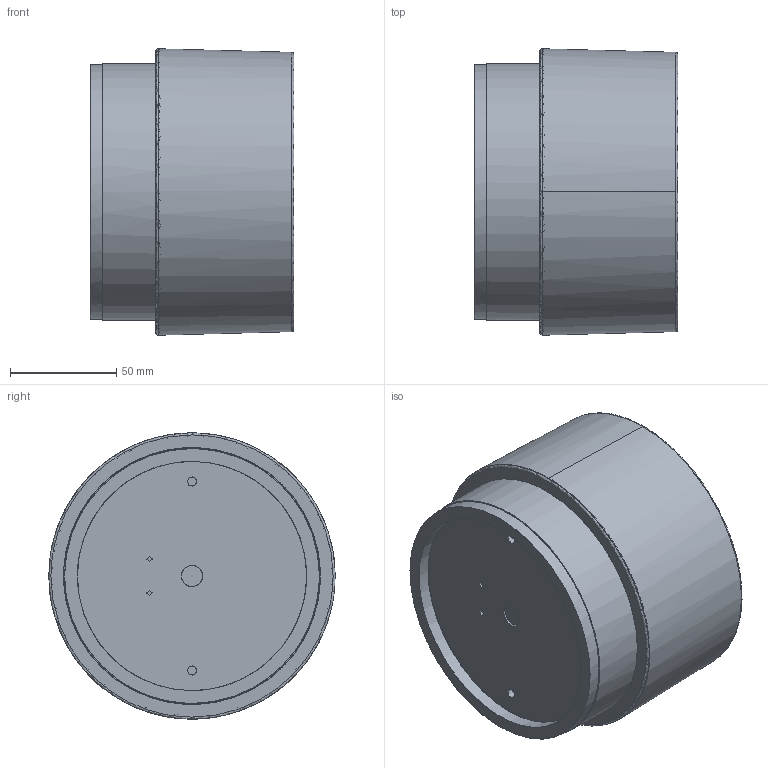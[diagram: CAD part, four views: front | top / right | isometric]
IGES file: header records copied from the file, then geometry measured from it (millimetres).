
Global section: file name: \\Innermost2_data\01 im product design\Stripped 3ds\00 Lighting\Full Stop Flushmount\Innermost_FullStop_Flushmount.igs; native system: Rhinoceros ( Aug 11 2021 ); preprocessor: Trout Lake IGES 012 Aug 11 2021; date: 211115.081047; units: millimetre
Bounding box: 96 x 134.94 x 134.95 mm (x, y, z)
Surface area: 177042.5 mm2 (no closed solid volume)
Topology: 0 solids, 0 shells, 103 faces, 919 edges, 869 vertices
Faces by surface type: bspline 103
